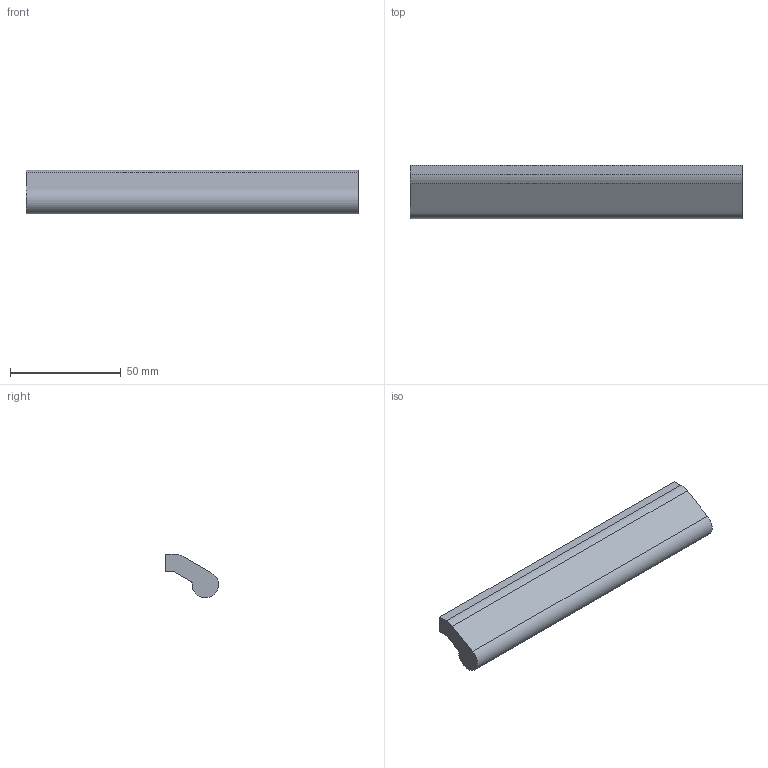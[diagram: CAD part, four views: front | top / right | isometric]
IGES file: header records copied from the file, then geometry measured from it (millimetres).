
Start section: Data from Parasolid IGES Translator 15.0.47, Copyright(c) 2006 Siemens P LM Software. All Rights Reserved.
Global section: file name: 115101.igs; native system:  By UGS Corp.; preprocessor: XPlus GENERIC/IGES 3.0; author: Noname; organization: Noname; date: 20140122.143536; units: millimetre
Bounding box: 150 x 24 x 19.77 mm (x, y, z)
Surface area: 11252 mm2 (no closed solid volume)
Topology: 0 solids, 0 shells, 15 faces, 66 edges, 64 vertices
Faces by surface type: extrusion 9, revolution 6
